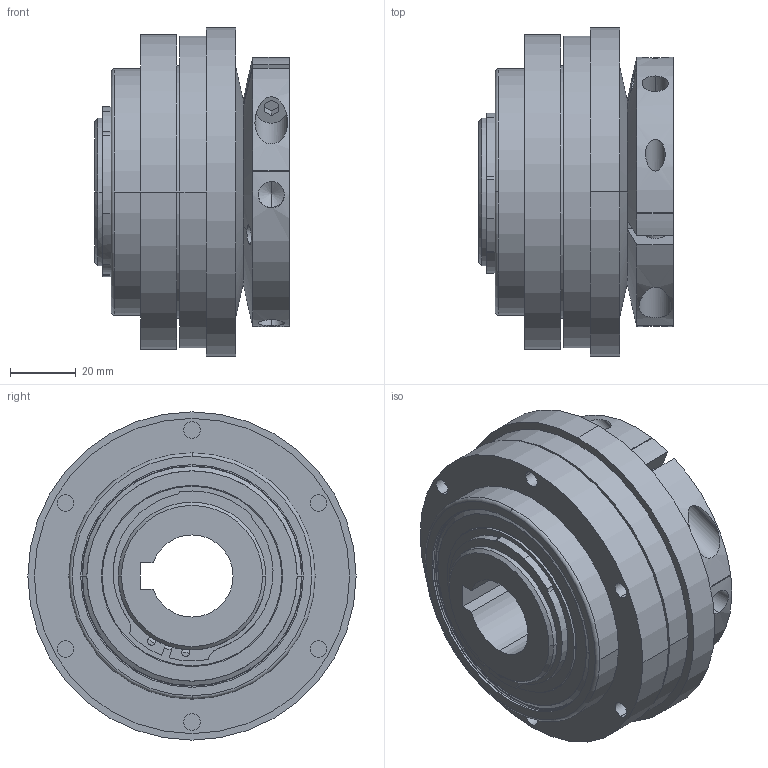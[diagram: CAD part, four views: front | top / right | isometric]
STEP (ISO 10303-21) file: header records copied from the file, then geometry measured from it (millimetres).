
FILE_DESCRIPTION(('STEP AP214'),'1');
FILE_NAME('2_96_dss_sg_n_d25_with_keyway_t4.stp','2022-07-12T09:18:51',('TraceParts'),('TraceParts S.A.'),'Spatial InterOp 3D',' ',' ');
FILE_SCHEMA(('AUTOMOTIVE_DESIGN { 1 0 10303 214 1 1 1 1 }'));
Length unit declared in the file: millimetre
Products named in the file (1): 2_96_dss_sg_n_d25_with_keyway_t4
Bounding box: 59.34 x 100 x 100 mm (x, y, z)
Volume: 269940.5 mm3; surface area: 84090.3 mm2
Topology: 3 solids, 3 shells, 276 faces, 713 edges, 455 vertices
Faces by surface type: cylinder 119, plane 78, cone 45, torus 34
Entity records: 11330 total; most frequent: CARTESIAN_POINT 2102, DIRECTION 1603, ORIENTED_EDGE 1398, EDGE_CURVE 699, AXIS2_PLACEMENT_3D 684, VERTEX_POINT 454, CIRCLE 407, EDGE_LOOP 325
